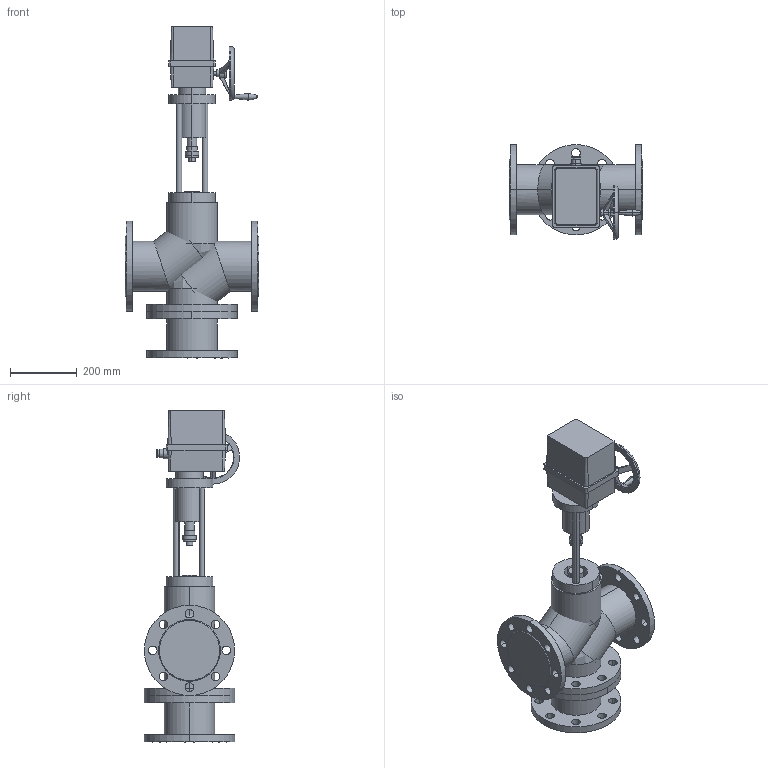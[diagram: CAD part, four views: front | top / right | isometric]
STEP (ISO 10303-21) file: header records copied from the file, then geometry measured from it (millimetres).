
FILE_DESCRIPTION(/* description */ (''),/* implementation_level */ '2;1');
FILE_NAME(/* name */ 'ТРК DN125 PN 2.5 МПа Regada ST1',/* time_stamp */ '2026-07-14T23:13:08+03:00',/* author */ (''),/* organization */ (''),/* preprocessor_version */ 'ST-DEVELOPER v20',/* originating_system */ '',/* authorisation */ '');
FILE_SCHEMA (('AP242_MANAGED_MODEL_BASED_3D_ENGINEERING_MIM_LF { 1 0 10303 442 1 1 4 }'));
Length unit declared in the file: millimetre
Products named in the file (16): TopLevelAssembly; Выдавливание; Модификатор; Модификатор_1; Выдавливание_
1; Выдавливание_
2; Вращение; Выдавливание_
3; Выдавливание_
4; Выдавливание_
5; Выдавливание_
6; Выдавливание_
7; Привод_Regada ST 1; Переход; Объемная геометрия 
присоединена; Объемная геометрия 
присоединена_1
Assembly tree (15 placements, depth 2):
  TopLevelAssembly
    Выдавливание
    Модификатор
    Модификатор_1
    Выдавливание_
1
    Выдавливание_
2
    Вращение
    Выдавливание_
3
    Выдавливание_
4
    Выдавливание_
5
    Выдавливание_
6
    Выдавливание_
7
    Привод_Regada ST 1
    Переход
    Объемная геометрия 
присоединена
    Объемная геометрия 
присоединена_1
Bounding box: 400 x 285 x 993 mm (x, y, z)
Volume: 26056383.3 mm3; surface area: 1855275 mm2
Topology: 30 solids, 30 shells, 319 faces, 717 edges, 446 vertices
Faces by surface type: cylinder 180, plane 107, bspline 28, cone 4
Entity records: 10332 total; most frequent: CARTESIAN_POINT 2231, DIRECTION 1736, ORIENTED_EDGE 1414, AXIS2_PLACEMENT_3D 731, EDGE_CURVE 707, VERTEX_POINT 446, EDGE_LOOP 415, CIRCLE 401
